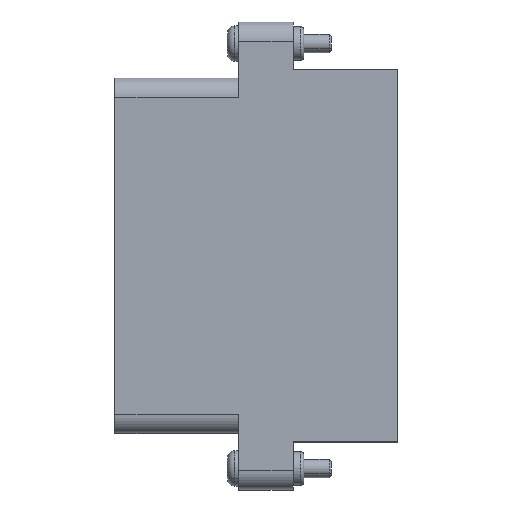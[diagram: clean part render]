
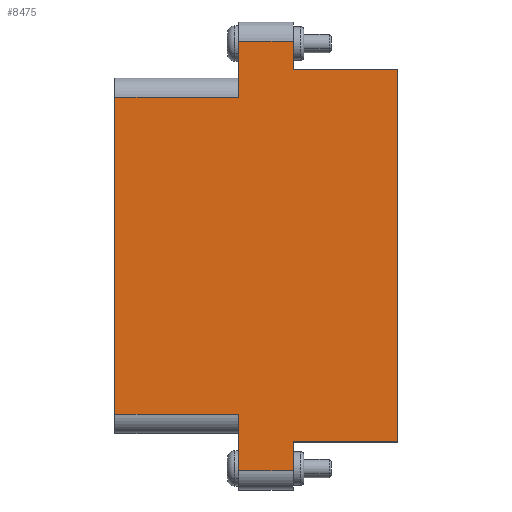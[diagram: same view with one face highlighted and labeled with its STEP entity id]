
A CAD part, top view. The second image highlights one B-rep face of the part: STEP entity #8475.
In plain terms, the highlighted planar face has unit normal (0, 0, 1).
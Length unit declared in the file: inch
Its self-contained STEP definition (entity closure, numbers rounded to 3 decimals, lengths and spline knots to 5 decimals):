
#75 = VECTOR ( 'NONE', #3133, 39.37008 ) ;
#80 = EDGE_CURVE ( 'NONE', #10623, #9526, #12598, .T. ) ;
#91 = ORIENTED_EDGE ( 'NONE', *, *, #10117, .T. ) ;
#120 = CARTESIAN_POINT ( 'NONE',  ( 27.33563, 35.73583, 51.26469 ) ) ;
#462 = DIRECTION ( 'NONE',  ( 0., 1., 0. ) ) ;
#552 = CARTESIAN_POINT ( 'NONE',  ( 27.07763, 35.87583, 51.26469 ) ) ;
#616 = DIRECTION ( 'NONE',  ( 0., 1., 0. ) ) ;
#669 = VERTEX_POINT ( 'NONE', #4014 ) ;
#712 = DIRECTION ( 'NONE',  ( 1., 0., 0. ) ) ;
#895 = DIRECTION ( 'NONE',  ( 1., 0., 0. ) ) ;
#921 = DIRECTION ( 'NONE',  ( 0., 1., 0. ) ) ;
#991 = CARTESIAN_POINT ( 'NONE',  ( 27.33563, 35.92583, 51.26469 ) ) ;
#998 = CARTESIAN_POINT ( 'NONE',  ( 27.33563, 33.51583, 51.26469 ) ) ;
#1164 = ORIENTED_EDGE ( 'NONE', *, *, #8816, .F. ) ;
#1397 = DIRECTION ( 'NONE',  ( 0., 1., 0. ) ) ;
#1497 = ORIENTED_EDGE ( 'NONE', *, *, #12570, .F. ) ;
#1557 = VECTOR ( 'NONE', #616, 39.37008 ) ;
#1653 = LINE ( 'NONE', #8113, #13047 ) ;
#1867 = AXIS2_PLACEMENT_3D ( 'NONE', #5812, #10019, #895 ) ;
#1970 = EDGE_CURVE ( 'NONE', #7532, #10623, #1653, .T. ) ;
#2390 = DIRECTION ( 'NONE',  ( 1., 0., 0. ) ) ;
#2568 = FACE_OUTER_BOUND ( 'NONE', #6514, .T. ) ;
#2729 = CARTESIAN_POINT ( 'NONE',  ( 27.07763, 33.56583, 51.26469 ) ) ;
#3133 = DIRECTION ( 'NONE',  ( 0., 1., 0. ) ) ;
#3348 = CARTESIAN_POINT ( 'NONE',  ( 27.82763, 35.60083, 51.26469 ) ) ;
#3363 = VERTEX_POINT ( 'NONE', #12253 ) ;
#3431 = ORIENTED_EDGE ( 'NONE', *, *, #80, .T. ) ;
#3484 = LINE ( 'NONE', #11796, #11407 ) ;
#3573 = VERTEX_POINT ( 'NONE', #7741 ) ;
#3762 = VERTEX_POINT ( 'NONE', #7310 ) ;
#4014 = CARTESIAN_POINT ( 'NONE',  ( 27.07763, 35.73583, 51.26469 ) ) ;
#4081 = EDGE_CURVE ( 'NONE', #6287, #3762, #3484, .T. ) ;
#4142 = LINE ( 'NONE', #8353, #8402 ) ;
#4348 = CARTESIAN_POINT ( 'NONE',  ( 27.33563, 33.84083, 51.26469 ) ) ;
#4702 = LINE ( 'NONE', #8913, #9965 ) ;
#5421 = CARTESIAN_POINT ( 'NONE',  ( 27.82763, 33.84083, 51.26469 ) ) ;
#5486 = DIRECTION ( 'NONE',  ( 1., 0., 0. ) ) ;
#5812 = CARTESIAN_POINT ( 'NONE',  ( 27.82763, 35.92583, 51.26469 ) ) ;
#5960 = LINE ( 'NONE', #10171, #10862 ) ;
#6287 = VERTEX_POINT ( 'NONE', #10699 ) ;
#6514 = EDGE_LOOP ( 'NONE', ( #10950, #1164, #91, #6802, #12445, #6931, #10718, #3431, #7079, #1497, #10933, #8133 ) ) ;
#6531 = LINE ( 'NONE', #12035, #11349 ) ;
#6802 = ORIENTED_EDGE ( 'NONE', *, *, #8256, .T. ) ;
#6931 = ORIENTED_EDGE ( 'NONE', *, *, #9342, .T. ) ;
#7079 = ORIENTED_EDGE ( 'NONE', *, *, #13686, .T. ) ;
#7310 = CARTESIAN_POINT ( 'NONE',  ( 27.07763, 33.97083, 51.26469 ) ) ;
#7320 = DIRECTION ( 'NONE',  ( 1., 0., 0. ) ) ;
#7532 = VERTEX_POINT ( 'NONE', #3348 ) ;
#7741 = CARTESIAN_POINT ( 'NONE',  ( 27.33563, 33.70583, 51.26469 ) ) ;
#8113 = CARTESIAN_POINT ( 'NONE',  ( 27.33563, 35.60083, 51.26469 ) ) ;
#8133 = ORIENTED_EDGE ( 'NONE', *, *, #9218, .F. ) ;
#8256 = EDGE_CURVE ( 'NONE', #3573, #9148, #12678, .T. ) ;
#8336 = VERTEX_POINT ( 'NONE', #5421 ) ;
#8353 = CARTESIAN_POINT ( 'NONE',  ( 26.49263, 35.60083, 51.26469 ) ) ;
#8402 = VECTOR ( 'NONE', #12652, 39.37008 ) ;
#8470 = EDGE_CURVE ( 'NONE', #9148, #8336, #6531, .T. ) ;
#8475 = ADVANCED_FACE ( 'NONE', ( #2568 ), #13138, .T. ) ;
#8689 = VECTOR ( 'NONE', #462, 39.37008 ) ;
#8816 = EDGE_CURVE ( 'NONE', #11480, #3762, #10957, .T. ) ;
#8913 = CARTESIAN_POINT ( 'NONE',  ( 27.82763, 35.60083, 51.26469 ) ) ;
#9070 = VECTOR ( 'NONE', #921, 39.37008 ) ;
#9139 = EDGE_CURVE ( 'NONE', #3363, #9310, #11547, .T. ) ;
#9148 = VERTEX_POINT ( 'NONE', #4348 ) ;
#9218 = EDGE_CURVE ( 'NONE', #6287, #3363, #4142, .T. ) ;
#9310 = VERTEX_POINT ( 'NONE', #9872 ) ;
#9342 = EDGE_CURVE ( 'NONE', #8336, #7532, #4702, .T. ) ;
#9404 = LINE ( 'NONE', #13634, #9675 ) ;
#9526 = VERTEX_POINT ( 'NONE', #120 ) ;
#9675 = VECTOR ( 'NONE', #12396, 39.37008 ) ;
#9727 = CARTESIAN_POINT ( 'NONE',  ( 27.33563, 35.60083, 51.26469 ) ) ;
#9872 = CARTESIAN_POINT ( 'NONE',  ( 27.07763, 35.47083, 51.26469 ) ) ;
#9965 = VECTOR ( 'NONE', #1397, 39.37008 ) ;
#10019 = DIRECTION ( 'NONE',  ( 0., 0., 1. ) ) ;
#10072 = LINE ( 'NONE', #552, #1557 ) ;
#10117 = EDGE_CURVE ( 'NONE', #11480, #3573, #5960, .T. ) ;
#10171 = CARTESIAN_POINT ( 'NONE',  ( 27.33563, 33.70583, 51.26469 ) ) ;
#10623 = VERTEX_POINT ( 'NONE', #9727 ) ;
#10699 = CARTESIAN_POINT ( 'NONE',  ( 26.49263, 33.97083, 51.26469 ) ) ;
#10718 = ORIENTED_EDGE ( 'NONE', *, *, #1970, .T. ) ;
#10862 = VECTOR ( 'NONE', #712, 39.37008 ) ;
#10933 = ORIENTED_EDGE ( 'NONE', *, *, #9139, .F. ) ;
#10950 = ORIENTED_EDGE ( 'NONE', *, *, #4081, .T. ) ;
#10957 = LINE ( 'NONE', #2729, #8689 ) ;
#11078 = VECTOR ( 'NONE', #7320, 39.37008 ) ;
#11349 = VECTOR ( 'NONE', #5486, 39.37008 ) ;
#11407 = VECTOR ( 'NONE', #2390, 39.37008 ) ;
#11480 = VERTEX_POINT ( 'NONE', #12691 ) ;
#11547 = LINE ( 'NONE', #11617, #11078 ) ;
#11617 = CARTESIAN_POINT ( 'NONE',  ( 26.49263, 35.47083, 51.26469 ) ) ;
#11796 = CARTESIAN_POINT ( 'NONE',  ( 26.49263, 33.97083, 51.26469 ) ) ;
#12035 = CARTESIAN_POINT ( 'NONE',  ( 27.33563, 33.84083, 51.26469 ) ) ;
#12253 = CARTESIAN_POINT ( 'NONE',  ( 26.49263, 35.47083, 51.26469 ) ) ;
#12341 = DIRECTION ( 'NONE',  ( -1., 0., 0. ) ) ;
#12396 = DIRECTION ( 'NONE',  ( -1., 0., 0. ) ) ;
#12445 = ORIENTED_EDGE ( 'NONE', *, *, #8470, .T. ) ;
#12570 = EDGE_CURVE ( 'NONE', #9310, #669, #10072, .T. ) ;
#12598 = LINE ( 'NONE', #991, #9070 ) ;
#12652 = DIRECTION ( 'NONE',  ( 0., 1., 0. ) ) ;
#12678 = LINE ( 'NONE', #998, #75 ) ;
#12691 = CARTESIAN_POINT ( 'NONE',  ( 27.07763, 33.70583, 51.26469 ) ) ;
#13047 = VECTOR ( 'NONE', #12341, 39.37008 ) ;
#13138 = PLANE ( 'NONE',  #1867 ) ;
#13634 = CARTESIAN_POINT ( 'NONE',  ( 27.07763, 35.73583, 51.26469 ) ) ;
#13686 = EDGE_CURVE ( 'NONE', #9526, #669, #9404, .T. ) ;
